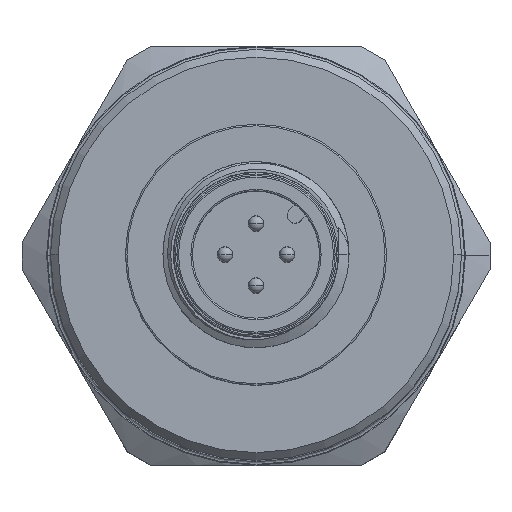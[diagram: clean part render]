
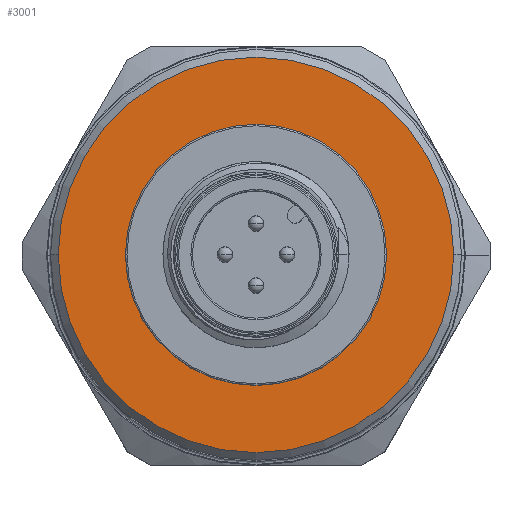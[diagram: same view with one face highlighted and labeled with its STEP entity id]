
A CAD part, top view. The second image highlights one B-rep face of the part: STEP entity #3001.
In plain terms, the highlighted planar face has unit normal (0, 0, 1).
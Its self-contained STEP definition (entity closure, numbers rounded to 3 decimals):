
#48 = DIRECTION ( 'NONE',  ( 1., 0., 0. ) ) ;
#79 = DIRECTION ( 'NONE',  ( 1., 0., 0. ) ) ;
#174 = DIRECTION ( 'NONE',  ( 0., 0., 1. ) ) ;
#190 = CARTESIAN_POINT ( 'NONE',  ( -12.75, 0., 45. ) ) ;
#285 = CIRCLE ( 'NONE', #4115, 12.75 ) ;
#687 = AXIS2_PLACEMENT_3D ( 'NONE', #5845, #174, #1169 ) ;
#705 = DIRECTION ( 'NONE',  ( 0., 0., 1. ) ) ;
#920 = ORIENTED_EDGE ( 'NONE', *, *, #2177, .F. ) ;
#947 = CARTESIAN_POINT ( 'NONE',  ( 12.75, 0., 45. ) ) ;
#970 = DIRECTION ( 'NONE',  ( 0., 0., 1. ) ) ;
#1041 = DIRECTION ( 'NONE',  ( 0., 0., 1. ) ) ;
#1169 = DIRECTION ( 'NONE',  ( 1., 0., 0. ) ) ;
#1198 = PLANE ( 'NONE',  #687 ) ;
#1226 = AXIS2_PLACEMENT_3D ( 'NONE', #3899, #3932, #4511 ) ;
#2177 = EDGE_CURVE ( 'NONE', #4805, #5644, #2648, .T. ) ;
#2242 = ORIENTED_EDGE ( 'NONE', *, *, #5145, .F. ) ;
#2459 = EDGE_LOOP ( 'NONE', ( #4440, #4940 ) ) ;
#2469 = EDGE_LOOP ( 'NONE', ( #920, #2242 ) ) ;
#2648 = CIRCLE ( 'NONE', #1226, 8.42 ) ;
#3001 = ADVANCED_FACE ( 'NONE', ( #5440, #5404 ), #1198, .T. ) ;
#3161 = CARTESIAN_POINT ( 'NONE',  ( 0., 0., 45. ) ) ;
#3351 = AXIS2_PLACEMENT_3D ( 'NONE', #3161, #970, #48 ) ;
#3509 = CARTESIAN_POINT ( 'NONE',  ( 0., 0., 45. ) ) ;
#3692 = VERTEX_POINT ( 'NONE', #190 ) ;
#3899 = CARTESIAN_POINT ( 'NONE',  ( 0., 0., 45. ) ) ;
#3932 = DIRECTION ( 'NONE',  ( 0., 0., 1. ) ) ;
#4115 = AXIS2_PLACEMENT_3D ( 'NONE', #3509, #705, #5081 ) ;
#4440 = ORIENTED_EDGE ( 'NONE', *, *, #5729, .T. ) ;
#4511 = DIRECTION ( 'NONE',  ( 1., 0., 0. ) ) ;
#4571 = CARTESIAN_POINT ( 'NONE',  ( -8.42, 0., 45. ) ) ;
#4604 = AXIS2_PLACEMENT_3D ( 'NONE', #6312, #1041, #79 ) ;
#4805 = VERTEX_POINT ( 'NONE', #4571 ) ;
#4940 = ORIENTED_EDGE ( 'NONE', *, *, #5859, .T. ) ;
#5081 = DIRECTION ( 'NONE',  ( 1., 0., 0. ) ) ;
#5097 = VERTEX_POINT ( 'NONE', #947 ) ;
#5145 = EDGE_CURVE ( 'NONE', #5644, #4805, #6623, .T. ) ;
#5404 = FACE_BOUND ( 'NONE', #2469, .T. ) ;
#5440 = FACE_OUTER_BOUND ( 'NONE', #2459, .T. ) ;
#5644 = VERTEX_POINT ( 'NONE', #6424 ) ;
#5729 = EDGE_CURVE ( 'NONE', #3692, #5097, #285, .T. ) ;
#5845 = CARTESIAN_POINT ( 'NONE',  ( 0., 0., 45. ) ) ;
#5859 = EDGE_CURVE ( 'NONE', #5097, #3692, #6466, .T. ) ;
#6312 = CARTESIAN_POINT ( 'NONE',  ( 0., 0., 45. ) ) ;
#6424 = CARTESIAN_POINT ( 'NONE',  ( 8.42, 0., 45. ) ) ;
#6466 = CIRCLE ( 'NONE', #4604, 12.75 ) ;
#6623 = CIRCLE ( 'NONE', #3351, 8.42 ) ;
